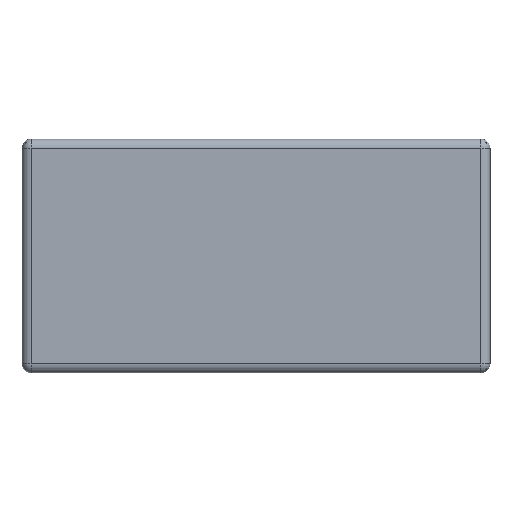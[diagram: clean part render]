
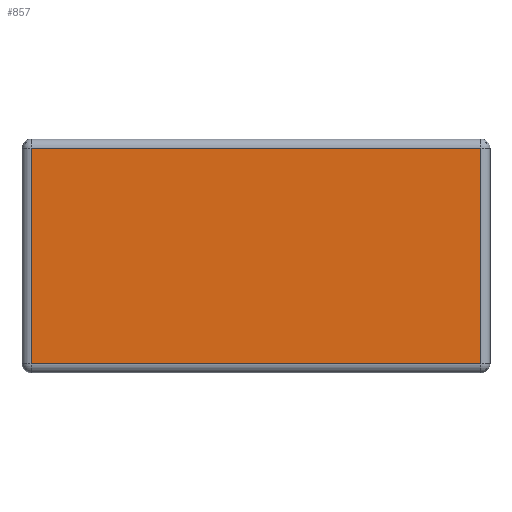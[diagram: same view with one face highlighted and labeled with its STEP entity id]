
A CAD part, front view. The second image highlights one B-rep face of the part: STEP entity #857.
In plain terms, the highlighted planar face has unit normal (0, -1, 0).
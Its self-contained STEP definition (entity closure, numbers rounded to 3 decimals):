
#87=LINE('',#1440,#167);
#88=LINE('',#1441,#168);
#89=LINE('',#1442,#169);
#90=LINE('',#1443,#170);
#167=VECTOR('',#1151,1000.);
#168=VECTOR('',#1152,1000.);
#169=VECTOR('',#1153,1000.);
#170=VECTOR('',#1154,1000.);
#290=ORIENTED_EDGE('',*,*,#516,.T.);
#291=ORIENTED_EDGE('',*,*,#517,.T.);
#292=ORIENTED_EDGE('',*,*,#518,.T.);
#293=ORIENTED_EDGE('',*,*,#519,.T.);
#516=EDGE_CURVE('',#590,#602,#87,.F.);
#517=EDGE_CURVE('',#602,#598,#88,.F.);
#518=EDGE_CURVE('',#598,#586,#89,.F.);
#519=EDGE_CURVE('',#586,#590,#90,.F.);
#586=VERTEX_POINT('',#1356);
#590=VERTEX_POINT('',#1366);
#598=VERTEX_POINT('',#1382);
#602=VERTEX_POINT('',#1392);
#687=EDGE_LOOP('',(#290,#291,#292,#293));
#757=FACE_BOUND('',#687,.T.);
#814=PLANE('',#959);
#857=ADVANCED_FACE('',(#757),#814,.F.);
#959=AXIS2_PLACEMENT_3D('',#1439,#1149,#1150);
#1149=DIRECTION('',(0.,1.,0.));
#1150=DIRECTION('',(0.,0.,1.));
#1151=DIRECTION('',(-1.,0.,0.));
#1152=DIRECTION('',(0.,0.,-1.));
#1153=DIRECTION('',(1.,0.,0.));
#1154=DIRECTION('',(0.,0.,1.));
#1356=CARTESIAN_POINT('',(-24.415,0.,3.78));
#1366=CARTESIAN_POINT('',(-24.415,0.,-19.62));
#1382=CARTESIAN_POINT('',(24.385,0.,3.78));
#1392=CARTESIAN_POINT('',(24.385,0.,-19.62));
#1439=CARTESIAN_POINT('',(-25.415,0.,4.78));
#1440=CARTESIAN_POINT('',(-25.415,0.,-19.62));
#1441=CARTESIAN_POINT('',(24.385,0.,4.78));
#1442=CARTESIAN_POINT('',(-25.415,0.,3.78));
#1443=CARTESIAN_POINT('',(-24.415,0.,4.78));
